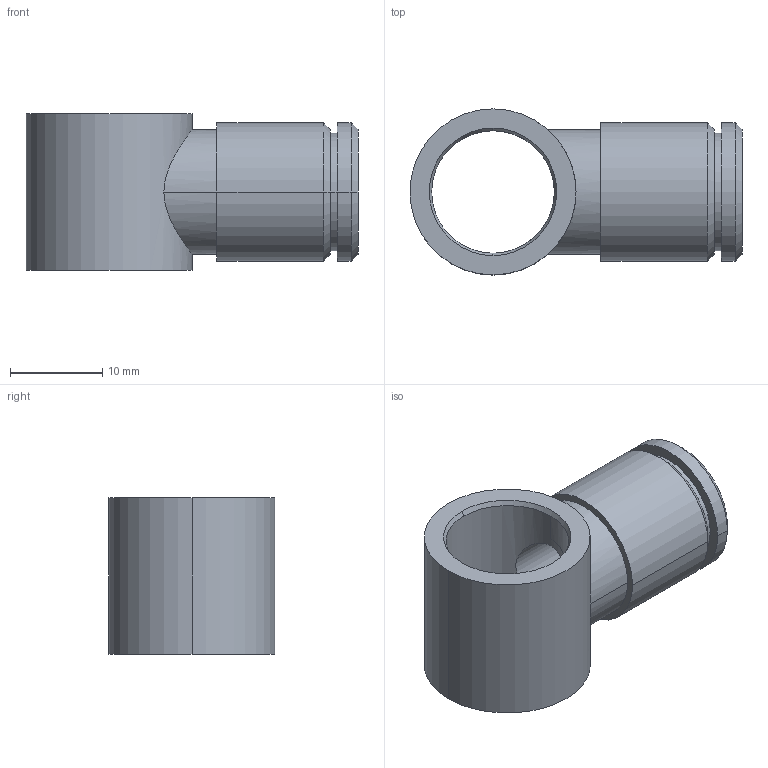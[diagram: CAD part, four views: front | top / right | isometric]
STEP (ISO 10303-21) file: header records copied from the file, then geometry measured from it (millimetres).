
FILE_DESCRIPTION((''),'2;1');
FILE_NAME('1823391592','2022-12-26T17:52:22',('TUH5HC'),(''),'CREO PARAMETRIC BY PTC INC, 2020044','CREO PARAMETRIC BY PTC INC, 2020044','');
FILE_SCHEMA(('CONFIG_CONTROL_DESIGN','SHAPE_APPEARANCE_LAYERS_GROUPS'));
Length unit declared in the file: millimetre
Products named in the file (1): 1823391592
Bounding box: 36 x 18 x 17 mm (x, y, z)
Volume: 4045.7 mm3; surface area: 3311.6 mm2
Topology: 1 solids, 1 shells, 28 faces, 68 edges, 45 vertices
Faces by surface type: cylinder 14, cone 8, plane 6
Entity records: 1088 total; most frequent: CARTESIAN_POINT 346, DIRECTION 152, ORIENTED_EDGE 136, EDGE_CURVE 68, AXIS2_PLACEMENT_3D 64, VERTEX_POINT 45, CIRCLE 36, EDGE_LOOP 35
